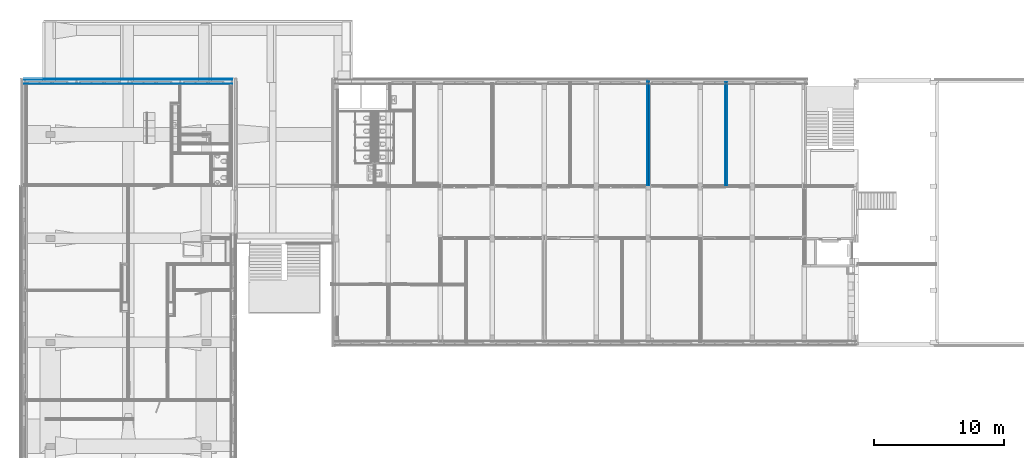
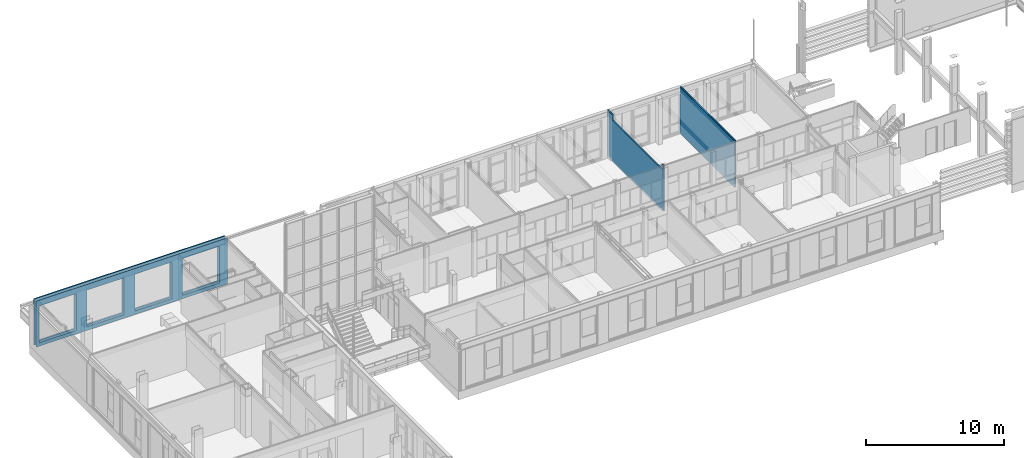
# One storey, part 56 of 94: 14 building element parts, 8 openings, 3 elements without a shape of their own.
"""IFC2X3 building model written with IfcOpenShell, lengths in millimetres."""

from ifc_helpers import new_model, entity, si_unit, converted_unit, derived_unit, money_unit, direction, frame, origin_with_axes, place, context, subcontext, project, spatial, faceted_brep, material, type_object, element, aggregate, save


model = new_model("IFC2X3")

# Units and contexts
model_context = context("Model", 3, precision=0.01, world=origin_with_axes(), true_north=direction((0.0, 1.0)))
body_context = subcontext(model_context, "Body", "Model", "MODEL_VIEW")
ifc_project = project(units=[si_unit("LENGTHUNIT", "METRE", prefix="MILLI"), si_unit("AREAUNIT", "SQUARE_METRE"), si_unit("VOLUMEUNIT", "CUBIC_METRE"), converted_unit("PLANEANGLEUNIT", "DEGREE", entity("IfcPlaneAngleMeasure", 0.0174532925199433), si_unit("PLANEANGLEUNIT", "RADIAN"), dimensions=[0, 0, 0, 0, 0, 0, 0]), money_unit("EUR"), converted_unit("TIMEUNIT", "Year", entity("IfcTimeMeasure", 31557600.0), si_unit("TIMEUNIT", "SECOND"), dimensions=[0, 0, 1, 0, 0, 0, 0]), si_unit("MASSUNIT", "GRAM", prefix="KILO"), si_unit("THERMODYNAMICTEMPERATUREUNIT", "DEGREE_CELSIUS"), si_unit("LUMINOUSINTENSITYUNIT", "LUMEN"), si_unit("ENERGYUNIT", "JOULE", prefix="MEGA"), derived_unit("THERMALCONDUCTANCEUNIT", [(si_unit("POWERUNIT", "WATT"), 1), (si_unit("LENGTHUNIT", "METRE"), -1), (si_unit("THERMODYNAMICTEMPERATUREUNIT", "KELVIN"), -1)]), derived_unit("SPECIFICHEATCAPACITYUNIT", [(si_unit("ENERGYUNIT", "JOULE"), 1), (si_unit("MASSUNIT", "GRAM", prefix="KILO"), -1), (si_unit("THERMODYNAMICTEMPERATUREUNIT", "KELVIN"), -1)]), derived_unit("MASSDENSITYUNIT", [(si_unit("MASSUNIT", "GRAM", prefix="KILO"), 1), (si_unit("VOLUMEUNIT", "CUBIC_METRE"), -1)])], contexts=[model_context])

# Site, building, storey
site_placement = place(None, origin_with_axes())
site = spatial("IfcSite", under=ifc_project, at=site_placement, Name="<site naam>", CompositionType="ELEMENT")
building_placement = place(site_placement, origin_with_axes())
building = spatial("IfcBuilding", under=site, at=building_placement, Name="<Naam gebouw>", CompositionType="ELEMENT")
storey_placement = place(building_placement, frame((0.0, 0.0, 4250.0), z_axis=(0.0, 0.0, 1.0), x_axis=(1.0, 0.0, 0.0)))
storey = spatial("IfcBuildingStorey", under=building, at=storey_placement, Name="01 1e verdieping", CompositionType="ELEMENT", Elevation=4250.0)

# Wall, building element parts
wall_type_1 = type_object("IfcWallType", Name="MS-01 GF 150 ECO DGS/2.100.2.A 150", PredefinedType="NOTDEFINED")
wall_1_placement = place(storey_placement, frame((42000.00000000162, 19999.99999956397, 0.0), z_axis=(0.0, 0.0, 1.0), x_axis=(0.0, -1.0, 0.0)))
wall_1 = element("IfcWall", 1, at=wall_1_placement, inside=storey, type_object=wall_type_1, Name="22_Binnenwand_MS-01")
ifc_material_1 = material(Name="gipsplaat")
building_element_part_1_placement = place(wall_1_placement, origin_with_axes())
building_element_part_1 = element("IfcBuildingElementPart", 2, at=building_element_part_1_placement, material=ifc_material_1, Name="gipsplaat", context=body_context, shape_type="Brep", body=[
    faceted_brep([(0.0, 49.99999999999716, 4100.0), (0.0, 62.5, 4100.0), (0.0, 62.5, 0.0), (0.0, 49.99999999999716, 0.0), (7924.999999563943, 62.50000000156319, 4100.0), (7924.999999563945, 50.00000000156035, 4100.0), (7924.999999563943, 62.50000000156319, 0.0), (7924.999999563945, 50.00000000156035, 0.0)], [[[0, 1, 2, 3]], [[4, 1, 0, 5]], [[1, 4, 6, 2]], [[3, 2, 6, 7]], [[5, 0, 3, 7]], [[4, 5, 7, 6]]]),
])
building_element_part_2_placement = place(wall_1_placement, origin_with_axes())
building_element_part_2 = element("IfcBuildingElementPart", 3, at=building_element_part_2_placement, material=ifc_material_1, Name="gipsplaat", context=body_context, shape_type="Brep", body=[
    faceted_brep([(0.0, 62.5, 4100.0), (0.0, 75.00000000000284, 4100.0), (0.0, 75.00000000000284, 0.0), (0.0, 62.5, 0.0), (7924.999999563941, 75.00000000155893, 4100.0), (7924.999999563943, 62.50000000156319, 4100.0), (7924.999999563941, 75.00000000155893, 0.0), (7924.999999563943, 62.50000000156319, 0.0)], [[[0, 1, 2, 3]], [[4, 1, 0, 5]], [[1, 4, 6, 2]], [[3, 2, 6, 7]], [[5, 0, 3, 7]], [[4, 5, 7, 6]]]),
])
building_element_part_3_placement = place(wall_1_placement, origin_with_axes())
building_element_part_3 = element("IfcBuildingElementPart", 4, at=building_element_part_3_placement, material=ifc_material_1, Name="gipsplaat", context=body_context, shape_type="Brep", body=[
    faceted_brep([(0.0, -62.5, 4100.0), (0.0, -49.99999999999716, 4100.0), (0.0, -49.99999999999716, 0.0), (0.0, -62.5, 0.0), (7924.999999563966, -49.99999999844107, 4100.0), (7924.999999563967, -62.49999999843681, 4100.0), (7924.999999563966, -49.99999999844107, 0.0), (7924.999999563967, -62.49999999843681, 0.0)], [[[0, 1, 2, 3]], [[4, 1, 0, 5]], [[1, 4, 6, 2]], [[3, 2, 6, 7]], [[5, 0, 3, 7]], [[4, 5, 7, 6]]]),
])
ifc_material_2 = material(Name="isolatie_steenwol LSW")
building_element_part_4_placement = place(wall_1_placement, origin_with_axes())
building_element_part_4 = element("IfcBuildingElementPart", 5, at=building_element_part_4_placement, material=ifc_material_2, Name="isolatie_steenwol LSW", context=body_context, shape_type="Brep", body=[
    faceted_brep([(0.0, -49.99999999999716, 4100.0), (0.0, 49.99999999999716, 4100.0), (0.0, 49.99999999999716, 0.0), (0.0, -49.99999999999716, 0.0), (7924.999999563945, 50.00000000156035, 4100.0), (7924.999999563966, -49.99999999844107, 4100.0), (7924.999999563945, 50.00000000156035, 0.0), (7924.999999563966, -49.99999999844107, 0.0)], [[[0, 1, 2, 3]], [[4, 1, 0, 5]], [[1, 4, 6, 2]], [[3, 2, 6, 7]], [[5, 0, 3, 7]], [[4, 5, 7, 6]]]),
])
building_element_part_5_placement = place(wall_1_placement, origin_with_axes())
building_element_part_5 = element("IfcBuildingElementPart", 6, at=building_element_part_5_placement, material=ifc_material_1, Name="gipsplaat", context=body_context, shape_type="Brep", body=[
    faceted_brep([(0.0, -75.00000000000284, 4100.0), (0.0, -62.5, 4100.0), (0.0, -62.5, 0.0), (0.0, -75.00000000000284, 0.0), (7924.999999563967, -62.49999999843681, 4100.0), (7924.999999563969, -74.99999999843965, 4100.0), (7924.999999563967, -62.49999999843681, 0.0), (7924.999999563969, -74.99999999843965, 0.0)], [[[0, 1, 2, 3]], [[4, 1, 0, 5]], [[1, 4, 6, 2]], [[3, 2, 6, 7]], [[5, 0, 3, 7]], [[4, 5, 7, 6]]]),
])
aggregate(wall_1, [building_element_part_1, building_element_part_2, building_element_part_3, building_element_part_4, building_element_part_5])

wall_2_placement = place(storey_placement, frame((36000.00000000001, 20116.99995206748, 0.0), z_axis=(0.0, 0.0, 1.0), x_axis=(0.0, -1.0, 0.0)))
wall_2 = element("IfcWall", 7, at=wall_2_placement, inside=storey, type_object=wall_type_1, Name="22_Binnenwand_MS-01")
building_element_part_6_placement = place(wall_2_placement, origin_with_axes())
building_element_part_6 = element("IfcBuildingElementPart", 8, at=building_element_part_6_placement, material=ifc_material_1, Name="gipsplaat", context=body_context, shape_type="Brep", body=[
    faceted_brep([(111.4538021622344, 49.99999999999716, 4100.0), (111.4538021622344, 62.5, 4100.0), (0.0, 62.5, 4100.0), (0.0, 49.99999999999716, 4100.0), (111.4538021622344, 62.5, 3569.999999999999), (111.4538021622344, 49.99999999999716, 3569.999999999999), (7841.999952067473, 62.49999999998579, 4050.000000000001), (8041.999952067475, 62.49999999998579, 4050.000000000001), (8041.999952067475, 62.49999999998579, 0.0), (0.0, 62.5, 0.0), (116.9999520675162, 62.5, 3569.999999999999), (116.9999520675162, 62.5, 4050.000000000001), (666.9999520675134, 62.5, 4050.000000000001), (666.9999520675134, 62.5, 3569.999999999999), (7841.999952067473, 62.49999999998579, 3569.999999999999), (0.0, 49.99999999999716, 0.0), (8041.999952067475, 49.99999999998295, 0.0), (8041.999952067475, 49.99999999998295, 4050.000000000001), (7841.999952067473, 49.99999999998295, 4050.000000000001), (7841.999952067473, 49.99999999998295, 3569.999999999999), (666.9999520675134, 49.99999999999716, 3569.999999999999), (666.9999520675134, 49.99999999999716, 4050.000000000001), (116.9999520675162, 49.99999999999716, 4050.000000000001), (116.9999520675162, 49.99999999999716, 3569.999999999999)], [[[0, 1, 2, 3]], [[4, 1, 0, 5]], [[6, 7, 8, 9, 2, 1, 4, 10, 11, 12, 13, 14]], [[15, 3, 2, 9]], [[5, 0, 3, 15, 16, 17, 18, 19, 20, 21, 22, 23]], [[10, 4, 5, 23]], [[7, 6, 18, 17]], [[7, 17, 16, 8]], [[15, 9, 8, 16]], [[11, 10, 23, 22]], [[12, 11, 22, 21]], [[13, 12, 21, 20]], [[14, 13, 20, 19]], [[6, 14, 19, 18]]]),
])
building_element_part_7_placement = place(wall_2_placement, origin_with_axes())
building_element_part_7 = element("IfcBuildingElementPart", 9, at=building_element_part_7_placement, material=ifc_material_2, Name="isolatie_steenwol LSW", context=body_context, shape_type="Brep", body=[
    faceted_brep([(111.4538021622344, -49.99999999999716, 4100.0), (111.4538021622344, 49.99999999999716, 4100.0), (0.0, 49.99999999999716, 4100.0), (0.0, -49.99999999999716, 4100.0), (111.4538021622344, 49.99999999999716, 3569.999999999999), (111.4538021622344, -50.00000000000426, 3569.999999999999), (7841.999952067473, 49.99999999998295, 4050.000000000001), (8041.999952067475, 49.99999999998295, 4050.000000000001), (8041.999952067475, 49.99999999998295, 0.0), (0.0, 49.99999999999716, 0.0), (116.9999520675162, 49.99999999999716, 3569.999999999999), (116.9999520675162, 49.99999999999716, 4050.000000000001), (666.9999520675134, 49.99999999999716, 4050.000000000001), (666.9999520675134, 49.99999999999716, 3569.999999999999), (7841.999952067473, 49.99999999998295, 3569.999999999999), (0.0, -49.99999999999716, 0.0), (8041.999952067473, -50.00000000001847, 0.0), (8041.999952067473, -50.00000000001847, 4050.000000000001), (7841.999952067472, -50.00000000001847, 4050.000000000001), (7841.999952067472, -50.00000000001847, 3569.999999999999), (666.9999520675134, -50.00000000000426, 3569.999999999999), (666.9999520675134, -50.00000000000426, 4050.000000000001), (116.9999520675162, -50.00000000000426, 4050.000000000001), (116.9999520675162, -50.00000000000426, 3569.999999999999)], [[[0, 1, 2, 3]], [[4, 1, 0, 5]], [[6, 7, 8, 9, 2, 1, 4, 10, 11, 12, 13, 14]], [[15, 3, 2, 9]], [[5, 0, 3, 15, 16, 17, 18, 19, 20, 21, 22, 23]], [[10, 4, 5, 23]], [[7, 6, 18, 17]], [[7, 17, 16, 8]], [[15, 9, 8, 16]], [[11, 10, 23, 22]], [[12, 11, 22, 21]], [[13, 12, 21, 20]], [[14, 13, 20, 19]], [[6, 14, 19, 18]]]),
])
building_element_part_8_placement = place(wall_2_placement, origin_with_axes())
building_element_part_8 = element("IfcBuildingElementPart", 10, at=building_element_part_8_placement, material=ifc_material_1, Name="gipsplaat", context=body_context, shape_type="Brep", body=[
    faceted_brep([(111.4538021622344, -62.5, 4100.0), (111.4538021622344, -49.99999999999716, 4100.0), (0.0, -49.99999999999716, 4100.0), (0.0, -62.5, 4100.0), (111.4538021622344, -49.99999999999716, 3569.999999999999), (111.4538021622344, -62.5, 3569.999999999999), (7841.999952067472, -50.00000000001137, 4050.000000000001), (8041.999952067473, -50.00000000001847, 4050.000000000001), (8041.999952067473, -50.00000000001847, 0.0), (0.0, -49.99999999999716, 0.0), (116.9999520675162, -49.99999999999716, 3569.999999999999), (116.9999520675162, -49.99999999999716, 4050.000000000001), (666.9999520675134, -49.99999999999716, 4050.000000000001), (666.9999520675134, -49.99999999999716, 3569.999999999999), (7841.999952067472, -50.00000000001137, 3569.999999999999), (0.0, -62.5, 0.0), (8041.999952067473, -62.50000000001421, 0.0), (8041.999952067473, -62.50000000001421, 4050.000000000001), (7841.999952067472, -62.50000000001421, 4050.000000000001), (7841.999952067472, -62.50000000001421, 3569.999999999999), (666.9999520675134, -62.5, 3569.999999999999), (666.9999520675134, -62.5, 4050.000000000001), (116.9999520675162, -62.5, 4050.000000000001), (116.9999520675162, -62.5, 3569.999999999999)], [[[0, 1, 2, 3]], [[4, 1, 0, 5]], [[6, 7, 8, 9, 2, 1, 4, 10, 11, 12, 13, 14]], [[15, 3, 2, 9]], [[5, 0, 3, 15, 16, 17, 18, 19, 20, 21, 22, 23]], [[10, 4, 5, 23]], [[7, 6, 18, 17]], [[7, 17, 16, 8]], [[15, 9, 8, 16]], [[11, 10, 23, 22]], [[12, 11, 22, 21]], [[13, 12, 21, 20]], [[14, 13, 20, 19]], [[6, 14, 19, 18]]]),
])
building_element_part_9_placement = place(wall_2_placement, origin_with_axes())
building_element_part_9 = element("IfcBuildingElementPart", 11, at=building_element_part_9_placement, material=ifc_material_1, Name="gipsplaat", context=body_context, shape_type="Brep", body=[
    faceted_brep([(111.4538021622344, -75.00000000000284, 4100.0), (111.4538021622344, -62.5, 4100.0), (0.0, -62.5, 4100.0), (0.0, -75.00000000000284, 4100.0), (111.4538021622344, -62.5, 3569.999999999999), (111.4538021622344, -75.00000000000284, 3569.999999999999), (7841.999952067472, -62.50000000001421, 4050.000000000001), (8041.999952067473, -62.50000000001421, 4050.000000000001), (8041.999952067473, -62.50000000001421, 0.0), (0.0, -62.5, 0.0), (116.9999520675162, -62.5, 3569.999999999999), (116.9999520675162, -62.5, 4050.000000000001), (666.9999520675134, -62.5, 4050.000000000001), (666.9999520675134, -62.5, 3569.999999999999), (7841.999952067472, -62.50000000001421, 3569.999999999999), (0.0, -75.00000000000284, 0.0), (8041.999952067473, -75.00000000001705, 0.0), (8041.999952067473, -75.00000000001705, 4050.000000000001), (7841.999952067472, -75.00000000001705, 4050.000000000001), (7841.999952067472, -75.00000000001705, 3569.999999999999), (666.9999520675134, -75.00000000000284, 3569.999999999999), (666.9999520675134, -75.00000000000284, 4050.000000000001), (116.9999520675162, -75.00000000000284, 4050.000000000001), (116.9999520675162, -75.00000000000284, 3569.999999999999)], [[[0, 1, 2, 3]], [[4, 1, 0, 5]], [[6, 7, 8, 9, 2, 1, 4, 10, 11, 12, 13, 14]], [[15, 3, 2, 9]], [[5, 0, 3, 15, 16, 17, 18, 19, 20, 21, 22, 23]], [[10, 4, 5, 23]], [[7, 6, 18, 17]], [[7, 17, 16, 8]], [[15, 9, 8, 16]], [[11, 10, 23, 22]], [[12, 11, 22, 21]], [[13, 12, 21, 20]], [[14, 13, 20, 19]], [[6, 14, 19, 18]]]),
])
aggregate(wall_2, [building_element_part_6, building_element_part_7, building_element_part_8, building_element_part_9])

# Wall, openings, building element parts
wall_type_2 = type_object("IfcWallType", Name="HSB_285 gevelbeplating 420", PredefinedType="NOTDEFINED")
wall_3_placement = place(storey_placement, frame((-11999.99999999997, 20297.99999999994, 0.0), z_axis=(0.0, 0.0, 1.0), x_axis=(1.0, 0.0, 0.0)))
wall_3 = element("IfcWall", 12, at=wall_3_placement, inside=storey, type_object=wall_type_2, Name="21_Binnenwand_HSB_285")
opening_1_placement = place(wall_3_placement, frame((1178.499999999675, 0.0, 295.4097373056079), z_axis=(0.0, 0.0, 1.0), x_axis=(1.0, 0.0, 0.0)))
element("IfcOpeningElement", 13, at=opening_1_placement, cuts=wall_3, Name="21_BU-A-13a sp_305", context=body_context, shape_type="Brep", body=[
    faceted_brep([(-918.4999999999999, -213.000000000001, 3259.590266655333), (918.4999999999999, -213.000000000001, 3259.590266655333), (918.4999999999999, 1.000000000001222, 3259.590266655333), (-918.4999999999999, 1.000000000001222, 3259.590266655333), (-918.4999999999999, -421.000000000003, 3259.590266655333), (918.4999999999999, -421.000000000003, 3259.590266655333), (918.4999999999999, -213.000000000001, 0.0), (918.4999999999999, 1.000000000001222, 0.0), (-918.4999999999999, 1.000000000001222, 0.0), (-918.4999999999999, -213.000000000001, 0.0), (-918.4999999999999, -421.000000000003, 0.0), (918.4999999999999, -421.000000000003, 0.0)], [[[0, 1, 2, 3]], [[1, 0, 4, 5]], [[1, 6, 7, 2]], [[2, 7, 8, 3]], [[9, 0, 3, 8]], [[0, 9, 10, 4]], [[4, 10, 11, 5]], [[6, 1, 5, 11]], [[6, 9, 8, 7]], [[9, 6, 11, 10]]]),
])
opening_2_placement = place(wall_3_placement, frame((2730.499999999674, 0.0, 295.4097373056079), z_axis=(0.0, 0.0, 1.0), x_axis=(1.0, 0.0, 0.0)))
element("IfcOpeningElement", 14, at=opening_2_placement, cuts=wall_3, Name="21_BU-A-13b sp_305", context=body_context, shape_type="Brep", body=[
    faceted_brep([(-633.4999999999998, -213.000000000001, 3259.590266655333), (633.4999999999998, -213.000000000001, 3259.590266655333), (633.4999999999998, 1.000000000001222, 3259.590266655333), (-633.4999999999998, 1.000000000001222, 3259.590266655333), (-633.4999999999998, -421.000000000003, 3259.590266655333), (633.4999999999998, -421.000000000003, 3259.590266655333), (633.4999999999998, -213.000000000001, 0.0), (633.4999999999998, 1.000000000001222, 0.0), (-633.4999999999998, 1.000000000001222, 0.0), (-633.4999999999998, -213.000000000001, 0.0), (-633.4999999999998, -421.000000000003, 0.0), (633.4999999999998, -421.000000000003, 0.0)], [[[0, 1, 2, 3]], [[1, 0, 4, 5]], [[1, 6, 7, 2]], [[2, 7, 8, 3]], [[9, 0, 3, 8]], [[0, 9, 10, 4]], [[4, 10, 11, 5]], [[6, 1, 5, 11]], [[6, 9, 8, 7]], [[9, 6, 11, 10]]]),
])
opening_3_placement = place(wall_3_placement, frame((5178.499999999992, 0.0, 295.4097373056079), z_axis=(0.0, 0.0, 1.0), x_axis=(1.0, 0.0, 0.0)))
element("IfcOpeningElement", 15, at=opening_3_placement, cuts=wall_3, Name="21_BU-A-13a sp_305", context=body_context, shape_type="Brep", body=[
    faceted_brep([(-918.4999999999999, -213.000000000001, 3259.590266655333), (918.4999999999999, -213.000000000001, 3259.590266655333), (918.4999999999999, 1.000000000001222, 3259.590266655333), (-918.4999999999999, 1.000000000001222, 3259.590266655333), (-918.4999999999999, -421.000000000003, 3259.590266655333), (918.4999999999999, -421.000000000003, 3259.590266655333), (918.4999999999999, -213.000000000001, 0.0), (918.4999999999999, 1.000000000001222, 0.0), (-918.4999999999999, 1.000000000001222, 0.0), (-918.4999999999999, -213.000000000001, 0.0), (-918.4999999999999, -421.000000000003, 0.0), (918.4999999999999, -421.000000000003, 0.0)], [[[0, 1, 2, 3]], [[1, 0, 4, 5]], [[1, 6, 7, 2]], [[2, 7, 8, 3]], [[9, 0, 3, 8]], [[0, 9, 10, 4]], [[4, 10, 11, 5]], [[6, 1, 5, 11]], [[6, 9, 8, 7]], [[9, 6, 11, 10]]]),
])
opening_4_placement = place(wall_3_placement, frame((6730.499999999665, 0.0, 295.4097373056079), z_axis=(0.0, 0.0, 1.0), x_axis=(1.0, 0.0, 0.0)))
element("IfcOpeningElement", 16, at=opening_4_placement, cuts=wall_3, Name="21_BU-A-13b sp_305", context=body_context, shape_type="Brep", body=[
    faceted_brep([(-633.4999999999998, -213.000000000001, 3254.590368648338), (633.4999999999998, -213.000000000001, 3254.590368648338), (633.4999999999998, 1.000000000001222, 3254.590368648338), (-633.4999999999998, 1.000000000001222, 3254.590368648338), (-633.4999999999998, -421.000000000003, 3254.590368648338), (633.4999999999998, -421.000000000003, 3254.590368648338), (633.4999999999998, -213.000000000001, 0.0), (633.4999999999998, 1.000000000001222, 0.0), (-633.4999999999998, 1.000000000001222, 0.0), (-633.4999999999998, -213.000000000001, 0.0), (-633.4999999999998, -421.000000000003, 0.0), (633.4999999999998, -421.000000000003, 0.0)], [[[0, 1, 2, 3]], [[1, 0, 4, 5]], [[1, 6, 7, 2]], [[2, 7, 8, 3]], [[9, 0, 3, 8]], [[0, 9, 10, 4]], [[4, 10, 11, 5]], [[6, 1, 5, 11]], [[6, 9, 8, 7]], [[9, 6, 11, 10]]]),
])
opening_5_placement = place(wall_3_placement, frame((9178.522234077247, 0.0, 295.4097373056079), z_axis=(0.0, 0.0, 1.0), x_axis=(1.0, 0.0, 0.0)))
element("IfcOpeningElement", 17, at=opening_5_placement, cuts=wall_3, Name="21_BU-A-13a sp_305", context=body_context, shape_type="Brep", body=[
    faceted_brep([(-918.4999999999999, -213.000000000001, 3259.590266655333), (918.4999999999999, -213.000000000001, 3259.590266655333), (918.4999999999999, 1.000000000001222, 3259.590266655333), (-918.4999999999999, 1.000000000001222, 3259.590266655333), (-918.4999999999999, -421.000000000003, 3259.590266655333), (918.4999999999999, -421.000000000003, 3259.590266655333), (918.4999999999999, -213.000000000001, 0.0), (918.4999999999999, 1.000000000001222, 0.0), (-918.4999999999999, 1.000000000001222, 0.0), (-918.4999999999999, -213.000000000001, 0.0), (-918.4999999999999, -421.000000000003, 0.0), (918.4999999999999, -421.000000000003, 0.0)], [[[0, 1, 2, 3]], [[1, 0, 4, 5]], [[1, 6, 7, 2]], [[2, 7, 8, 3]], [[9, 0, 3, 8]], [[0, 9, 10, 4]], [[4, 10, 11, 5]], [[6, 1, 5, 11]], [[6, 9, 8, 7]], [[9, 6, 11, 10]]]),
])
opening_6_placement = place(wall_3_placement, frame((10730.52223407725, 0.0, 295.4097373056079), z_axis=(0.0, 0.0, 1.0), x_axis=(1.0, 0.0, 0.0)))
element("IfcOpeningElement", 18, at=opening_6_placement, cuts=wall_3, Name="21_BU-A-13b sp_305", context=body_context, shape_type="Brep", body=[
    faceted_brep([(-633.5, -213.000000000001, 3259.590266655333), (633.5, -213.000000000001, 3259.590266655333), (633.5, 1.000000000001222, 3259.590266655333), (-633.5, 1.000000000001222, 3259.590266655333), (-633.5, -421.000000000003, 3259.590266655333), (633.5, -421.000000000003, 3259.590266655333), (633.5, -213.000000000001, 0.0), (633.5, 1.000000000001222, 0.0), (-633.5, 1.000000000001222, 0.0), (-633.5, -213.000000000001, 0.0), (-633.5, -421.000000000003, 0.0), (633.5, -421.000000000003, 0.0)], [[[0, 1, 2, 3]], [[1, 0, 4, 5]], [[1, 6, 7, 2]], [[2, 7, 8, 3]], [[9, 0, 3, 8]], [[0, 9, 10, 4]], [[4, 10, 11, 5]], [[6, 1, 5, 11]], [[6, 9, 8, 7]], [[9, 6, 11, 10]]]),
])
opening_7_placement = place(wall_3_placement, frame((13178.5, 0.0, 295.4097373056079), z_axis=(0.0, 0.0, 1.0), x_axis=(1.0, 0.0, 0.0)))
element("IfcOpeningElement", 19, at=opening_7_placement, cuts=wall_3, Name="21_BU-A-13a sp_305", context=body_context, shape_type="Brep", body=[
    faceted_brep([(-918.5, -213.000000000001, 3259.590266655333), (918.4999999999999, -213.000000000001, 3259.590266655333), (918.4999999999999, 1.000000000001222, 3259.590266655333), (-918.5, 1.000000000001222, 3259.590266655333), (-918.5, -421.000000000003, 3259.590266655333), (918.4999999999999, -421.000000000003, 3259.590266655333), (918.4999999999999, -213.000000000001, 0.0), (918.4999999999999, 1.000000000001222, 0.0), (-918.5, 1.000000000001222, 0.0), (-918.5, -213.000000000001, 0.0), (-918.5, -421.000000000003, 0.0), (918.4999999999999, -421.000000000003, 0.0)], [[[0, 1, 2, 3]], [[1, 0, 4, 5]], [[1, 6, 7, 2]], [[2, 7, 8, 3]], [[9, 0, 3, 8]], [[0, 9, 10, 4]], [[4, 10, 11, 5]], [[6, 1, 5, 11]], [[6, 9, 8, 7]], [[9, 6, 11, 10]]]),
])
opening_8_placement = place(wall_3_placement, frame((14730.5, 0.0, 295.4097373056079), z_axis=(0.0, 0.0, 1.0), x_axis=(1.0, 0.0, 0.0)))
element("IfcOpeningElement", 20, at=opening_8_placement, cuts=wall_3, Name="21_BU-A-13b sp_305", context=body_context, shape_type="Brep", body=[
    faceted_brep([(-633.4999999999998, -213.000000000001, 3259.590266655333), (633.4999999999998, -213.000000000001, 3259.590266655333), (633.4999999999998, 1.000000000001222, 3259.590266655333), (-633.4999999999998, 1.000000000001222, 3259.590266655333), (-633.4999999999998, -421.000000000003, 3259.590266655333), (633.4999999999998, -421.000000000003, 3259.590266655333), (633.4999999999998, -213.000000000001, 0.0), (633.4999999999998, 1.000000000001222, 0.0), (-633.4999999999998, 1.000000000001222, 0.0), (-633.4999999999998, -213.000000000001, 0.0), (-633.4999999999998, -421.000000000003, 0.0), (633.4999999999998, -421.000000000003, 0.0)], [[[0, 1, 2, 3]], [[1, 0, 4, 5]], [[1, 6, 7, 2]], [[2, 7, 8, 3]], [[9, 0, 3, 8]], [[0, 9, 10, 4]], [[4, 10, 11, 5]], [[6, 1, 5, 11]], [[6, 9, 8, 7]], [[9, 6, 11, 10]]]),
])
ifc_material_3 = material(Name="metaal - Aluminium gevelplaat")
building_element_part_10_placement = place(wall_3_placement, origin_with_axes())
building_element_part_10 = element("IfcBuildingElementPart", 21, at=building_element_part_10_placement, material=ifc_material_3, Name="metaal - Aluminium gevelplaat", context=body_context, shape_type="Brep", body=[
    faceted_brep([(16000.04446815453, -39.99999999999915, 70.00015497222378), (16000.04446815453, 0.0, 70.00015497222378), (16000.04446815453, 0.0, 4070.000088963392), (16000.04446815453, -39.99999999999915, 4070.000088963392), (1495.924635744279, 0.0, 70.00015497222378), (1395.924628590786, -39.99999999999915, 70.00015497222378), (1395.924628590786, 0.0, 70.00015497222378), (1455.924628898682, 0.0, 70.00015497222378), (1455.924628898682, -22.99999999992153, 70.00015497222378), (1495.924635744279, -22.99999999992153, 70.00015497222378), (1395.924628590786, 0.0, 40.00004746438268), (1335.924631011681, 0.0, 40.00004746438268), (1335.924631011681, 0.0, 0.0), (0.0, 0.0, 0.0), (0.0, 0.0, 4070.000088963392), (0.0, -39.99999999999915, 4070.000088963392), (0.0, -39.99999999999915, 0.0), (1395.924628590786, -39.99999999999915, 0.0), (1395.924628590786, -22.99999999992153, 0.0), (1395.924628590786, -22.99999999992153, 40.00004746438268), (1335.924631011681, -22.99999999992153, 40.00004746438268), (1335.924631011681, -22.99999999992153, 0.0)], [[[0, 1, 2, 3]], [[4, 1, 0, 5, 6, 7, 8, 9]], [[6, 10, 11, 12, 13, 14, 2, 1, 4, 7]], [[14, 15, 3, 2]], [[5, 0, 3, 15, 16, 17]], [[10, 6, 5, 17, 18, 19]], [[8, 7, 4, 9]], [[10, 19, 20, 11]], [[21, 12, 11, 20]], [[18, 17, 16, 13, 12, 21]], [[13, 16, 15, 14]], [[19, 18, 21, 20]]]),
])
ifc_material_4 = material(Name="folie_dampopen")
building_element_part_11_placement = place(wall_3_placement, origin_with_axes())
building_element_part_11 = element("IfcBuildingElementPart", 22, at=building_element_part_11_placement, material=ifc_material_4, Name="folie_dampopen", context=body_context, shape_type="Brep", body=[
    faceted_brep([(16000.04446815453, -102.4999999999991, 70.00015497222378), (16000.04446815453, -102.0000000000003, 70.00015497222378), (16000.04446815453, -102.0000000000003, 4069.735956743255), (16000.04446815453, -102.4999999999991, 4069.735956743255), (1395.924628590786, -102.0000000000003, 70.00015497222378), (1395.924628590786, -102.4999999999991, 70.00015497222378), (1395.924628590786, -102.0000000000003, 0.0), (0.0, -102.0000000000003, 0.0), (0.0, -102.0000000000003, 4069.735956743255), (0.0, -102.4999999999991, 4069.735956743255), (0.0, -102.4999999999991, 0.0), (1395.924628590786, -102.4999999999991, 0.0)], [[[0, 1, 2, 3]], [[4, 1, 0, 5]], [[4, 6, 7, 8, 2, 1]], [[9, 3, 2, 8]], [[5, 0, 3, 9, 10, 11]], [[6, 4, 5, 11]], [[6, 11, 10, 7]], [[10, 9, 8, 7]]]),
])
ifc_material_5 = material(Name="brandwerende_bekleding")
building_element_part_12_placement = place(wall_3_placement, origin_with_axes())
building_element_part_12 = element("IfcBuildingElementPart", 23, at=building_element_part_12_placement, material=ifc_material_5, Name="brandwerende_bekleding", context=body_context, shape_type="Brep", body=[
    faceted_brep([(16000.04446815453, -106.9999999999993, 70.00015497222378), (16000.04446815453, -102.4999999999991, 70.00015497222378), (16000.04446815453, -102.4999999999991, 4069.735956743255), (16000.04446815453, -106.9999999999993, 4069.735956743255), (1395.924628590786, -102.4999999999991, 70.00015497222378), (1395.924628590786, -106.9999999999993, 70.00015497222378), (1395.924628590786, -102.4999999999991, 0.0), (0.0, -102.4999999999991, 0.0), (0.0, -102.4999999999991, 4069.735956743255), (0.0, -106.9999999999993, 4069.735956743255), (0.0, -106.9999999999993, 0.0), (1395.924628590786, -106.9999999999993, 0.0)], [[[0, 1, 2, 3]], [[4, 1, 0, 5]], [[4, 6, 7, 8, 2, 1]], [[9, 3, 2, 8]], [[5, 0, 3, 9, 10, 11]], [[6, 4, 5, 11]], [[6, 11, 10, 7]], [[10, 9, 8, 7]]]),
])
ifc_material_6 = material(Name="folie_dampdicht")
building_element_part_13_placement = place(wall_3_placement, origin_with_axes())
building_element_part_13 = element("IfcBuildingElementPart", 24, at=building_element_part_13_placement, material=ifc_material_6, Name="folie_dampdicht", context=body_context, shape_type="Brep", body=[
    faceted_brep([(0.0, -392.4999999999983, 4070.000088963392), (16000.04446815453, -392.4999999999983, 4070.000088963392), (16000.04446815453, -391.9999999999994, 4070.000088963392), (0.0, -391.9999999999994, 4070.000088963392), (0.0, -392.4999999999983, 0.0), (16000.04446815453, -392.4999999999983, 0.0), (16000.04446815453, -391.9999999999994, 0.0), (0.0, -391.9999999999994, 0.0)], [[[0, 1, 2, 3]], [[4, 5, 1, 0]], [[2, 1, 5, 6]], [[3, 2, 6, 7]], [[4, 0, 3, 7]], [[7, 6, 5, 4]]]),
])
ifc_material_7 = material(Name="hout_OSB")
building_element_part_14_placement = place(wall_3_placement, origin_with_axes())
building_element_part_14 = element("IfcBuildingElementPart", 25, at=building_element_part_14_placement, material=ifc_material_7, Name="hout_OSB", context=body_context, shape_type="Brep", body=[
    faceted_brep([(0.0, -407.4999999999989, 4070.000088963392), (16000.04446815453, -407.4999999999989, 4070.000088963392), (16000.04446815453, -392.4999999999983, 4070.000088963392), (0.0, -392.4999999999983, 4070.000088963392), (0.0, -407.4999999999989, 0.0), (16000.04446815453, -407.4999999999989, 0.0), (16000.04446815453, -392.4999999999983, 0.0), (0.0, -392.4999999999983, 0.0)], [[[0, 1, 2, 3]], [[4, 5, 1, 0]], [[2, 1, 5, 6]], [[3, 2, 6, 7]], [[4, 0, 3, 7]], [[7, 6, 5, 4]]]),
])
aggregate(wall_3, [building_element_part_10, building_element_part_11, building_element_part_12, building_element_part_13, building_element_part_14])

save(model, "model.ifc")
